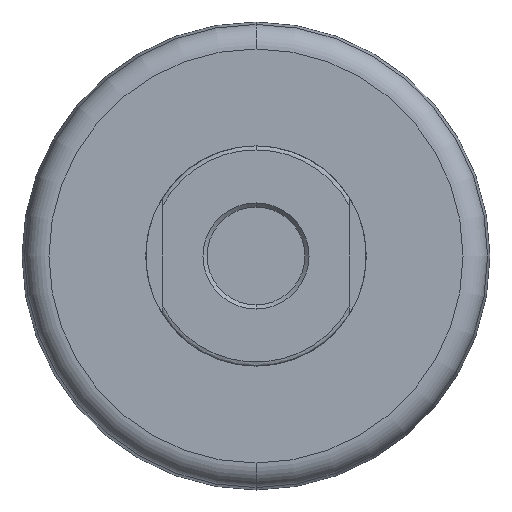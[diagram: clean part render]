
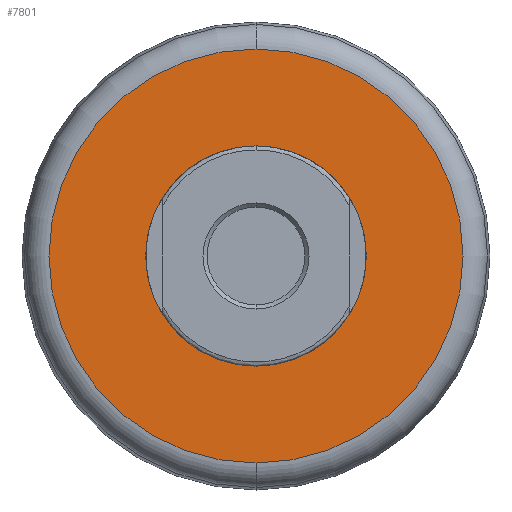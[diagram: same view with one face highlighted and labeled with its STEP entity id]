
A CAD part, front view. The second image highlights one B-rep face of the part: STEP entity #7801.
In plain terms, the highlighted planar face has unit normal (0, -1, 0).
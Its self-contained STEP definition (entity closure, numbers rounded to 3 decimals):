
#78 = EDGE_LOOP ( 'NONE', ( #8136, #3107 ) ) ;
#557 = AXIS2_PLACEMENT_3D ( 'NONE', #4678, #18411, #4494 ) ;
#1550 = EDGE_CURVE ( 'NONE', #13472, #12914, #8424, .T. ) ;
#1623 = AXIS2_PLACEMENT_3D ( 'NONE', #6440, #11072, #17159 ) ;
#3107 = ORIENTED_EDGE ( 'NONE', *, *, #10937, .F. ) ;
#3151 = CIRCLE ( 'NONE', #557, 50.75 ) ;
#3374 = CIRCLE ( 'NONE', #11862, 50.75 ) ;
#3434 = DIRECTION ( 'NONE',  ( 0., 0., -1. ) ) ;
#4141 = CARTESIAN_POINT ( 'NONE',  ( 56.359, -115.279, 144.563 ) ) ;
#4494 = DIRECTION ( 'NONE',  ( 0., 0., 1. ) ) ;
#4678 = CARTESIAN_POINT ( 'NONE',  ( 56.359, -115.279, 144.563 ) ) ;
#5320 = ORIENTED_EDGE ( 'NONE', *, *, #9938, .T. ) ;
#5738 = VERTEX_POINT ( 'NONE', #13734 ) ;
#6440 = CARTESIAN_POINT ( 'NONE',  ( 56.359, -115.279, 144.563 ) ) ;
#7464 = DIRECTION ( 'NONE',  ( 0., 1., 0. ) ) ;
#7776 = DIRECTION ( 'NONE',  ( 0., 1., 0. ) ) ;
#7801 = ADVANCED_FACE ( 'NONE', ( #8743, #11963 ), #14980, .T. ) ;
#8136 = ORIENTED_EDGE ( 'NONE', *, *, #12340, .F. ) ;
#8424 = CIRCLE ( 'NONE', #1623, 27. ) ;
#8743 = FACE_BOUND ( 'NONE', #11696, .T. ) ;
#9147 = CIRCLE ( 'NONE', #9810, 27. ) ;
#9810 = AXIS2_PLACEMENT_3D ( 'NONE', #15147, #7776, #13700 ) ;
#9938 = EDGE_CURVE ( 'NONE', #12914, #13472, #9147, .T. ) ;
#10937 = EDGE_CURVE ( 'NONE', #5738, #12058, #3374, .T. ) ;
#11072 = DIRECTION ( 'NONE',  ( 0., 1., 0. ) ) ;
#11405 = AXIS2_PLACEMENT_3D ( 'NONE', #12809, #16159, #3434 ) ;
#11696 = EDGE_LOOP ( 'NONE', ( #12486, #5320 ) ) ;
#11862 = AXIS2_PLACEMENT_3D ( 'NONE', #4141, #7464, #12185 ) ;
#11963 = FACE_OUTER_BOUND ( 'NONE', #78, .T. ) ;
#12058 = VERTEX_POINT ( 'NONE', #13969 ) ;
#12185 = DIRECTION ( 'NONE',  ( 0., 0., 1. ) ) ;
#12340 = EDGE_CURVE ( 'NONE', #12058, #5738, #3151, .T. ) ;
#12486 = ORIENTED_EDGE ( 'NONE', *, *, #1550, .T. ) ;
#12809 = CARTESIAN_POINT ( 'NONE',  ( 29.359, -115.279, 144.563 ) ) ;
#12914 = VERTEX_POINT ( 'NONE', #14598 ) ;
#13472 = VERTEX_POINT ( 'NONE', #17507 ) ;
#13700 = DIRECTION ( 'NONE',  ( 0., 0., 1. ) ) ;
#13734 = CARTESIAN_POINT ( 'NONE',  ( 56.359, -115.279, 93.813 ) ) ;
#13969 = CARTESIAN_POINT ( 'NONE',  ( 56.359, -115.279, 195.313 ) ) ;
#14598 = CARTESIAN_POINT ( 'NONE',  ( 56.359, -115.279, 117.563 ) ) ;
#14980 = PLANE ( 'NONE',  #11405 ) ;
#15147 = CARTESIAN_POINT ( 'NONE',  ( 56.359, -115.279, 144.563 ) ) ;
#16159 = DIRECTION ( 'NONE',  ( 0., -1., 0. ) ) ;
#17159 = DIRECTION ( 'NONE',  ( 0., 0., 1. ) ) ;
#17507 = CARTESIAN_POINT ( 'NONE',  ( 56.359, -115.279, 171.563 ) ) ;
#18411 = DIRECTION ( 'NONE',  ( 0., 1., 0. ) ) ;
